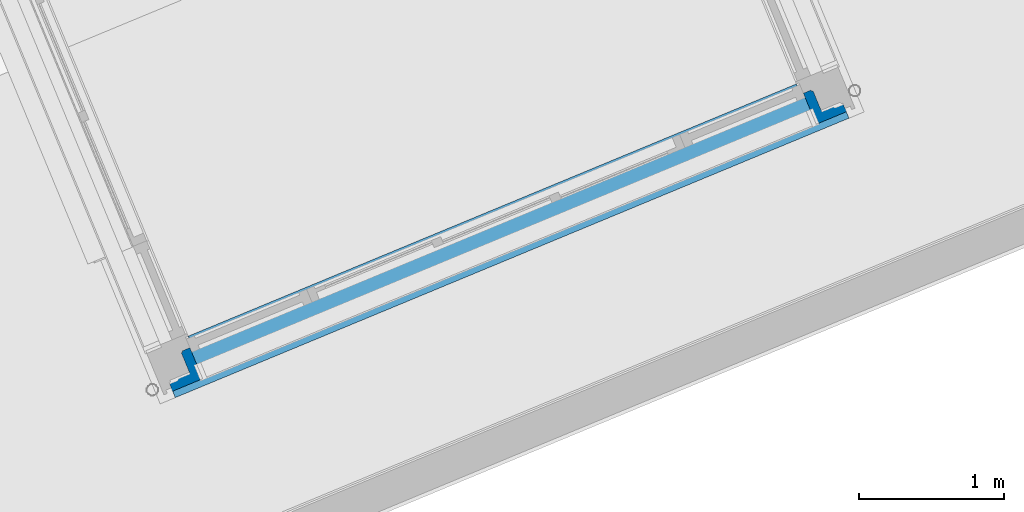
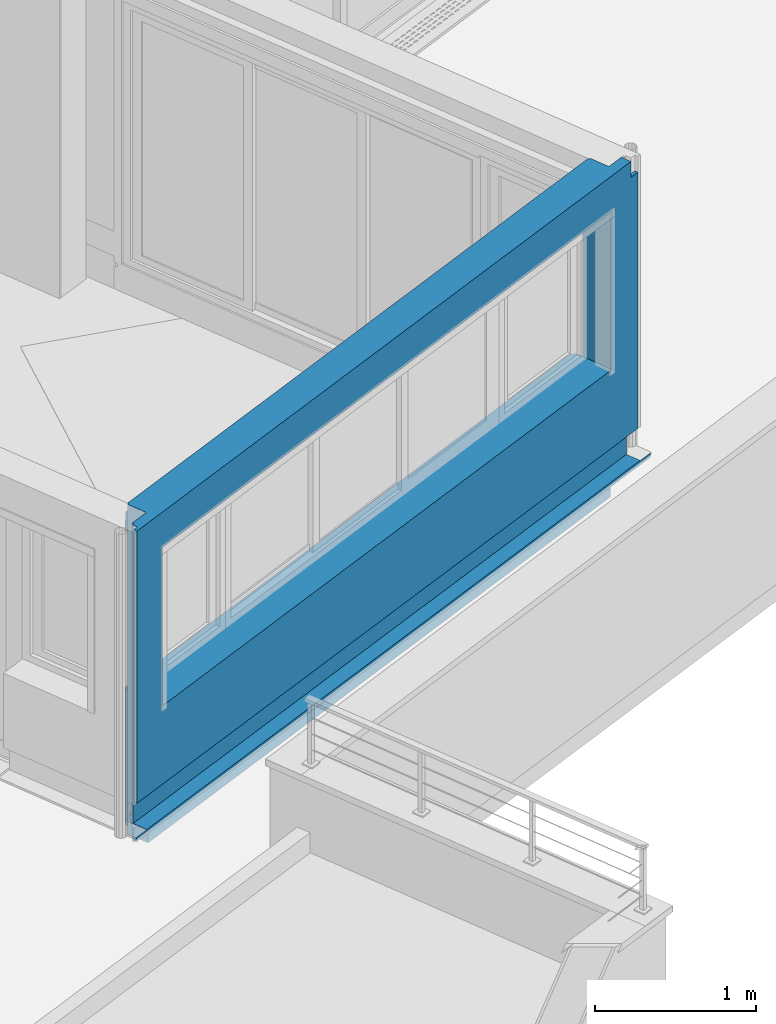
# One storey, part 4 of 62: 1 wall, 3 openings.
"""IFC2X3 building model written with IfcOpenShell, lengths in metres."""

import ifcopenshell
import ifcopenshell.guid

model = None  # the IFC model being written
_history = None  # IfcOwnerHistory: only IFC2X3 demands one
_inside = {}  # id of a spatial element -> (the spatial element, [elements in it])
_under = {}  # id of a project, library or spatial element -> (it, [spatial elements below it])
_declared = {}  # id of a project -> (the project, [libraries it declares])
_typed = {}  # id of a type object -> (the type object, [elements of that type])
_made_of = {}  # id of a material, layer set ... -> (it, [elements and type objects made of it])


def new_model(schema):
    """Start an empty IFC model of exactly this schema.

    Asked for "IFC4X3", IfcOpenShell would pick the latest addendum, in which some entities
    have other attributes; the version numbers below select the first issue.
    IFC2X3 requires an IfcOwnerHistory on every rooted entity: one is made here for all.
    """
    global model, _history
    if schema == "IFC4X3":
        model = ifcopenshell.file(schema_version=(4, 3, 0, 0))
    else:
        model = ifcopenshell.file(schema=schema)
    _inside.clear()
    _under.clear()
    _declared.clear()
    _typed.clear()
    _made_of.clear()
    _history = None
    if model.schema == "IFC2X3":
        org = make("IfcOrganization", Name="unknown")
        user = make(
            "IfcPersonAndOrganization",
            ThePerson=make("IfcPerson", FamilyName="unknown"),
            TheOrganization=org,
        )
        app = make(
            "IfcApplication",
            ApplicationDeveloper=org,
            Version="unknown",
            ApplicationFullName="unknown",
            ApplicationIdentifier="unknown",
        )
        _history = make(
            "IfcOwnerHistory",
            OwningUser=user,
            OwningApplication=app,
            ChangeAction="ADDED",
            CreationDate=0,
        )
    return model


def make(cls, **values):
    """One entity of the class cls with the attributes given. An attribute that is None is left unset."""
    return model.create_entity(
        cls, **{name: value for name, value in values.items() if value is not None}
    )


def entity(cls, *values):
    """Any entity or typed value of the class cls, its attributes in the order of the schema. None: left unset."""
    e = model.create_entity(cls)
    for i, value in enumerate(values):
        if value is not None:
            e[i] = value
    return e


def rooted(cls, **values):
    """An entity with a GlobalId (a new one), such as an element, a storey or a relation."""
    return make(cls, GlobalId=ifcopenshell.guid.new(), OwnerHistory=_history, **values)


def si_unit(unit_type, name, prefix=None):
    """IfcSIUnit, for example si_unit("LENGTHUNIT", "METRE", prefix="MILLI")."""
    return make("IfcSIUnit", UnitType=unit_type, Prefix=prefix, Name=name)


def converted_unit(unit_type, name, factor, base, dimensions=None, offset=None):
    """IfcConversionBasedUnit, such as the inch: factor (a typed value) times the base unit."""
    return make(
        "IfcConversionBasedUnit"
        if offset is None
        else "IfcConversionBasedUnitWithOffset",
        ConversionOffset=offset,
        Dimensions=None
        if dimensions is None
        else entity("IfcDimensionalExponents", *dimensions),
        UnitType=unit_type,
        Name=name,
        ConversionFactor=make(
            "IfcMeasureWithUnit", ValueComponent=factor, UnitComponent=base
        ),
    )


def derived_unit(unit_type, elements):
    """IfcDerivedUnit: a product of units, each with its exponent."""
    return make(
        "IfcDerivedUnit",
        Elements=[
            make("IfcDerivedUnitElement", Unit=unit, Exponent=power)
            for unit, power in elements
        ],
        UnitType=unit_type,
    )


def money_unit(currency):
    """IfcMonetaryUnit."""
    return make("IfcMonetaryUnit", Currency=currency)


def assignment(units):
    """IfcUnitAssignment: the units of a project."""
    return None if units is None else make("IfcUnitAssignment", Units=units)


def point(xyz):
    """IfcCartesianPoint."""
    return None if xyz is None else make("IfcCartesianPoint", Coordinates=xyz)


def direction(xyz):
    """IfcDirection."""
    return None if xyz is None else make("IfcDirection", DirectionRatios=xyz)


def frame(location, z_axis=None, x_axis=None):
    """IfcAxis2Placement3D, a coordinate frame: its origin and axes. An axis left out is left unset."""
    return make(
        "IfcAxis2Placement3D",
        Location=point(location),
        Axis=direction(z_axis),
        RefDirection=direction(x_axis),
    )


def origin_with_axes():
    """The frame at (0, 0, 0) with the z axis (0, 0, 1) and the x axis (1, 0, 0) written out."""
    return frame((0.0, 0.0, 0.0), z_axis=(0.0, 0.0, 1.0), x_axis=(1.0, 0.0, 0.0))


def place(relative_to, where):
    """IfcLocalPlacement: puts the frame where relative to a parent placement (None: the world)."""
    return make(
        "IfcLocalPlacement", PlacementRelTo=relative_to, RelativePlacement=where
    )


def context(
    kind, dimensions, precision=None, world=None, true_north=None, identifier=None
):
    """IfcGeometricRepresentationContext, for example the 3D "Model" context."""
    return make(
        "IfcGeometricRepresentationContext",
        ContextIdentifier=identifier,
        ContextType=kind,
        CoordinateSpaceDimension=dimensions,
        Precision=precision,
        WorldCoordinateSystem=world,
        TrueNorth=true_north,
    )


def subcontext(parent, identifier, kind, view, scale=None):
    """IfcGeometricRepresentationSubContext, for example "Body" below "Model"."""
    return make(
        "IfcGeometricRepresentationSubContext",
        ContextIdentifier=identifier,
        ContextType=kind,
        ParentContext=parent,
        TargetScale=scale,
        TargetView=view,
    )


def project(units=None, contexts=None):
    """IfcProject with its units and contexts."""
    return rooted(
        "IfcProject",
        Name="project",
        RepresentationContexts=contexts,
        UnitsInContext=assignment(units),
    )


def spatial(cls, under=None, at=None, **own):
    """A site, building, storey or space (cls), placed at a placement, below another one or the project."""
    s = rooted(cls, ObjectPlacement=at, **own)
    if under is not None:
        _under.setdefault(under.id(), (under, []))[1].append(s)
    return s


def faces_of(points, faces, orient=None, outer=None):
    """IfcFace entities. A face is a list of loops; a loop is a list of indices into points, from 0.

    orient and outer hold one flag for each loop. By default every Orientation is true, the
    first loop of a face is its IfcFaceOuterBound and the others are IfcFaceBound.
    """
    made = []
    for i, loops in enumerate(faces):
        bounds = []
        for j, loop in enumerate(loops):
            is_outer = j == 0 if outer is None else outer[i][j]
            bounds.append(
                make(
                    "IfcFaceOuterBound" if is_outer else "IfcFaceBound",
                    Bound=make("IfcPolyLoop", Polygon=[points[k] for k in loop]),
                    Orientation=True if orient is None else orient[i][j],
                )
            )
        made.append(make("IfcFace", Bounds=bounds))
    return made


def faceted_brep(points, faces, orient=None, outer=None, voids=None):
    """IfcFacetedBrep: a solid bounded by flat faces; with voids (closed shells), ...WithVoids."""
    shared = [point(p) for p in points]
    hull = make("IfcClosedShell", CfsFaces=faces_of(shared, faces, orient, outer))
    if voids is None:
        return make("IfcFacetedBrep", Outer=hull)
    return make(
        "IfcFacetedBrepWithVoids",
        Outer=hull,
        Voids=[
            make(cls, CfsFaces=faces_of(shared, fs, o, b)) for cls, fs, o, b in voids
        ],
    )


def shape(context_of_items, identifier, shape_type, items):
    """IfcShapeRepresentation: the items that make up one representation, for example the "Body"."""
    return make(
        "IfcShapeRepresentation",
        ContextOfItems=context_of_items,
        RepresentationIdentifier=identifier,
        RepresentationType=shape_type,
        Items=items,
    )


def material(Name=None, Category=None):
    """IfcMaterial."""
    return make("IfcMaterial", Name=Name, Category=Category)


def material_list(materials):
    """IfcMaterialList."""
    return make("IfcMaterialList", Materials=materials)


def made_of(thing, what):
    """Note that an element or type object is made of a material, layer set ...; save() writes the relation."""
    if what is not None:
        _made_of.setdefault(what.id(), (what, []))[1].append(thing)
    return thing


def type_object(cls, material=None, **own):
    """A type object (cls), such as IfcWallType, which elements share."""
    return made_of(rooted(cls, **own), material)


def element(
    cls,
    number,
    at=None,
    inside=None,
    cuts=None,
    type_object=None,
    material=None,
    context=None,
    identifier="Body",
    shape_type=None,
    held_by="IfcProductDefinitionShape",
    body=None,
    shapes=None,
    **own,
):
    """One element of the class cls, such as IfcWall. Its Tag is "e" and its number.

    at: its placement. inside: the storey or other place that contains it. cuts: it is an
    opening in that element (IfcRelVoidsElement). A single representation is given by context,
    identifier, shape_type and body (its items); several are given by shapes. held_by: the class
    of the entity that holds the representations. save() writes the other relations.
    """
    e = rooted(cls, Tag="e%d" % number, ObjectPlacement=at, **own)
    if body is not None:
        shapes = [shape(context, identifier, shape_type, body)]
    if shapes is not None:
        e.Representation = make(held_by, Representations=shapes)
    if inside is not None:
        _inside.setdefault(inside.id(), (inside, []))[1].append(e)
    if cuts is not None:
        rooted(
            "IfcRelVoidsElement", RelatingBuildingElement=cuts, RelatedOpeningElement=e
        )
    if type_object is not None:
        _typed.setdefault(type_object.id(), (type_object, []))[1].append(e)
    return made_of(e, material)


def aggregate(whole, parts):
    """IfcRelAggregates: a whole, such as a stair, and the parts it consists of."""
    return rooted("IfcRelAggregates", RelatingObject=whole, RelatedObjects=parts)


def save(model, path):
    """Write the relations noted so far, then the file.

    IfcRelAggregates (storeys below a building ...), IfcRelContainedInSpatialStructure (elements
    in a storey), IfcRelDefinesByType, IfcRelAssociatesMaterial and IfcRelDeclares: one each for
    every whole, place, type object, material and project.
    """
    for whole, parts in _under.values():
        aggregate(whole, parts)
    for where, things in _inside.values():
        rooted(
            "IfcRelContainedInSpatialStructure",
            RelatedElements=things,
            RelatingStructure=where,
        )
    for kind, things in _typed.values():
        rooted("IfcRelDefinesByType", RelatedObjects=things, RelatingType=kind)
    for what, things in _made_of.values():
        rooted("IfcRelAssociatesMaterial", RelatedObjects=things, RelatingMaterial=what)
    for by, libraries in _declared.values():
        rooted("IfcRelDeclares", RelatingContext=by, RelatedDefinitions=libraries)
    model.write(path)


model = new_model("IFC2X3")

# Units and contexts
model_context = context("Model", 3, precision=1e-05, world=origin_with_axes(), true_north=direction((0.0, 1.0)))
body_context = subcontext(model_context, "Body", "Model", "MODEL_VIEW")
ifc_project = project(units=[si_unit("LENGTHUNIT", "METRE"), si_unit("AREAUNIT", "SQUARE_METRE"), si_unit("VOLUMEUNIT", "CUBIC_METRE"), converted_unit("PLANEANGLEUNIT", "DEGREE", entity("IfcPlaneAngleMeasure", 0.0174532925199), si_unit("PLANEANGLEUNIT", "RADIAN"), dimensions=[0, 0, 0, 0, 0, 0, 0]), si_unit("SOLIDANGLEUNIT", "STERADIAN"), money_unit("EUR"), converted_unit("TIMEUNIT", "Year", entity("IfcTimeMeasure", 31556926.0), si_unit("TIMEUNIT", "SECOND"), dimensions=[0, 0, 1, 0, 0, 0, 0]), si_unit("MASSUNIT", "GRAM", prefix="KILO"), si_unit("THERMODYNAMICTEMPERATUREUNIT", "DEGREE_CELSIUS"), si_unit("LUMINOUSINTENSITYUNIT", "LUMEN"), si_unit("ENERGYUNIT", "JOULE", prefix="MEGA"), derived_unit("THERMALCONDUCTANCEUNIT", [(si_unit("POWERUNIT", "WATT"), 1), (si_unit("LENGTHUNIT", "METRE"), -1), (si_unit("THERMODYNAMICTEMPERATUREUNIT", "KELVIN"), -1)]), derived_unit("SPECIFICHEATCAPACITYUNIT", [(si_unit("ENERGYUNIT", "JOULE"), 1), (si_unit("MASSUNIT", "GRAM", prefix="KILO"), -1), (si_unit("THERMODYNAMICTEMPERATUREUNIT", "KELVIN"), -1)]), derived_unit("MASSDENSITYUNIT", [(si_unit("MASSUNIT", "GRAM", prefix="KILO"), 1), (si_unit("VOLUMEUNIT", "CUBIC_METRE"), -1)])], contexts=[model_context])

# Site, building, storey
site_placement = place(None, origin_with_axes())
site = spatial("IfcSite", under=ifc_project, at=site_placement, Name="Site", CompositionType="ELEMENT")
building_placement = place(site_placement, origin_with_axes())
building = spatial("IfcBuilding", under=site, at=building_placement, Name="Bâtiment", CompositionType="ELEMENT")
storey_placement = place(building_placement, frame((0.0, 0.0, 8.16), z_axis=(0.0, 0.0, 1.0), x_axis=(1.0, 0.0, 0.0)))
storey = spatial("IfcBuildingStorey", under=building, at=storey_placement, Name="R+3", CompositionType="ELEMENT", Elevation=8.16)

# Wall, openings
ifc_material_1 = material(Name="Finition int - Plaque de plâtre")
ifc_material_2 = material(Name="Isolation - Laine de verre")
ifc_material_3 = material(Name="Etanchéité - Pare-vapeur")
ifc_material_4 = material(Name="Bois - Massif 01")
ifc_material_5 = material(Name="Béton")
ifc_material_6 = material(Name="Bois - OSB 02")
ifc_material_7 = material(Name="Etanchéité - Bitume")
ifc_material_8 = material(Name="Bois - Lattage")
ifc_material_9 = material(Name="Finition ext - Bardage bois")
ifc_material_10 = material(Name="Métal - Aluminium")
ifc_material_list = material_list([ifc_material_1, ifc_material_2, ifc_material_3, ifc_material_2, ifc_material_4, ifc_material_5, ifc_material_6, ifc_material_7, ifc_material_7, ifc_material_8, ifc_material_9, ifc_material_10])
wall_type = type_object("IfcWallType", Name="Mur ossature pour PF 358 x 2500", PredefinedType="ELEMENTEDWALL")
wall_placement = place(storey_placement, frame((-15.3230751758, -21.90732106, 0.02), z_axis=(0.0, 0.0, 1.0), x_axis=(0.923701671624, 0.383112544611, 0.0)))
wall = element("IfcWall", 1, at=wall_placement, inside=storey, type_object=wall_type, material=ifc_material_list, Name="M_Ext-009", ObjectType="ELEMENTEDWALL", context=body_context, shape_type="Brep", body=[
    faceted_brep([(3.995, 0.32500000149, 1.03), (3.995, 0.307000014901, 1.03), (4.87499999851, 0.307000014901, 1.03), (4.87499999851, 0.32500000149, 1.03), (1.205, 0.307000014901, 1.03), (1.205, 0.32500000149, 1.03), (0.32500000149, 0.307000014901, 1.03), (0.32500000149, 0.307000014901, 0.435), (0.32500000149, 0.307000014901, 0.23), (0.32500000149, 0.307000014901, 0.219006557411), (0.325000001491, 0.307000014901, 0.206820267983), (0.32500000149, 0.307000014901, 0.20667367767), (0.32500000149, 0.307000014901, 0.206589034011), (0.32500000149, 0.307000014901, 0.2), (0.32500000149, 0.307000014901, 0.099999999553), (0.32500000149, 0.307000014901, 0.0), (4.87499999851, 0.307000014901, 0.0), (4.87499999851, 0.307000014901, 0.099999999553), (4.87499999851, 0.307000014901, 0.2), (4.87499999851, 0.307000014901, 0.206589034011), (4.87499999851, 0.307000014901, 0.20667367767), (4.87499999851, 0.307000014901, 0.206820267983), (4.87499999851, 0.307000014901, 0.219006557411), (4.87499999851, 0.307000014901, 0.22999999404), (4.87499999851, 0.307000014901, 0.435), (4.87499999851, 0.32500000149, 0.435), (4.87499999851, 0.32500000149, 0.22999999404), (4.87499999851, 0.32500000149, 0.219006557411), (4.87499999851, 0.32500000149, 0.206820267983), (4.87499999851, 0.32500000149, 0.20667367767), (4.87499999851, 0.32500000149, 0.206589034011), (4.87499999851, 0.32500000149, 0.2), (4.87499999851, 0.32500000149, 0.099999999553), (4.87499999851, 0.32500000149, 0.0), (0.32500000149, 0.32500000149, 0.0), (0.32500000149, 0.32500000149, 0.099999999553), (0.32500000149, 0.32500000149, 0.2), (0.32500000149, 0.32500000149, 0.206589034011), (0.32500000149, 0.32500000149, 0.20667367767), (0.325000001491, 0.32500000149, 0.206820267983), (0.32500000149, 0.32500000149, 0.219006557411), (0.32500000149, 0.32500000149, 0.23), (0.32500000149, 0.32500000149, 0.435), (0.32500000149, 0.32500000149, 1.03)], [[[0, 1, 2, 3]], [[4, 1, 0, 5]], [[1, 4, 6, 7, 8, 9, 10, 11, 12, 13, 14, 15, 16, 17, 18, 19, 20, 21, 22, 23, 24, 2]], [[2, 24, 25, 3]], [[5, 0, 3, 25, 26, 27, 28, 29, 30, 31, 32, 33, 34, 35, 36, 37, 38, 39, 40, 41, 42, 43]], [[4, 5, 43, 6]], [[42, 7, 6, 43]], [[7, 42, 41, 8]], [[8, 41, 40, 9]], [[40, 39, 10, 9]], [[39, 38, 11, 10]], [[38, 37, 12, 11]], [[37, 36, 13, 12]], [[36, 35, 14, 13]], [[14, 35, 34, 15]], [[33, 16, 15, 34]], [[33, 32, 17, 16]], [[32, 31, 18, 17]], [[31, 30, 19, 18]], [[30, 29, 20, 19]], [[29, 28, 21, 20]], [[28, 27, 22, 21]], [[27, 26, 23, 22]], [[26, 25, 24, 23]]]),
    faceted_brep([(1.205, 0.307000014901, 2.23), (3.995, 0.307000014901, 2.23), (4.87499999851, 0.307000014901, 2.23), (4.87499999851, 0.307000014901, 2.3), (0.32500000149, 0.307000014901, 2.3), (0.32500000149, 0.307000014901, 2.23), (3.995, 0.32500000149, 2.23), (1.205, 0.32500000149, 2.23), (4.87499999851, 0.32500000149, 2.23), (4.87499999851, 0.32500000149, 2.3), (0.32500000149, 0.32500000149, 2.3), (0.32500000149, 0.32500000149, 2.23)], [[[0, 1, 2, 3, 4, 5]], [[6, 1, 0, 7]], [[1, 6, 8, 2]], [[8, 9, 3, 2]], [[10, 4, 3, 9]], [[4, 10, 11, 5]], [[7, 0, 5, 11]], [[6, 7, 11, 10, 9, 8]]]),
    faceted_brep([(3.995, 0.307000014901, 1.03), (3.995, 0.247000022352, 1.03), (4.8929999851, 0.247000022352, 1.03), (4.8929999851, 0.307000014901, 1.03), (1.205, 0.247000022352, 1.03), (1.205, 0.307000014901, 1.03), (0.307000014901, 0.247000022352, 1.03), (0.307000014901, 0.247000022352, 0.435), (0.307000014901, 0.247000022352, 0.23), (0.307000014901, 0.247000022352, 0.219006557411), (0.307000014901, 0.247000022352, 0.206820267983), (0.307000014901, 0.247000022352, 0.20667367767), (0.307000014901, 0.247000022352, 0.206589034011), (0.307000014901, 0.247000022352, 0.2), (0.307000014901, 0.247000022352, 0.099999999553), (0.307000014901, 0.247000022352, 0.0), (4.8929999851, 0.247000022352, 0.0), (4.8929999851, 0.247000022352, 0.099999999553), (4.8929999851, 0.247000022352, 0.2), (4.8929999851, 0.247000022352, 0.206589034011), (4.8929999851, 0.247000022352, 0.20667367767), (4.8929999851, 0.247000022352, 0.206820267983), (4.8929999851, 0.247000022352, 0.219006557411), (4.8929999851, 0.247000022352, 0.22999999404), (4.8929999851, 0.247000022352, 0.435), (4.8929999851, 0.307000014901, 0.435), (4.8929999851, 0.307000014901, 0.22999999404), (4.8929999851, 0.307000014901, 0.219006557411), (4.8929999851, 0.307000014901, 0.206820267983), (4.8929999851, 0.307000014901, 0.20667367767), (4.8929999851, 0.307000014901, 0.206589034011), (4.8929999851, 0.307000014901, 0.2), (4.8929999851, 0.307000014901, 0.099999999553), (4.8929999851, 0.307000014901, 0.0), (0.307000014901, 0.307000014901, 0.0), (0.307000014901, 0.307000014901, 0.099999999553), (0.307000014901, 0.307000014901, 0.2), (0.307000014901, 0.307000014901, 0.206589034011), (0.307000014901, 0.307000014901, 0.20667367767), (0.307000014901, 0.307000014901, 0.206820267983), (0.307000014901, 0.307000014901, 0.219006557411), (0.307000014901, 0.307000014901, 0.23), (0.307000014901, 0.307000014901, 0.435), (0.307000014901, 0.307000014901, 1.03)], [[[0, 1, 2, 3]], [[4, 1, 0, 5]], [[1, 4, 6, 7, 8, 9, 10, 11, 12, 13, 14, 15, 16, 17, 18, 19, 20, 21, 22, 23, 24, 2]], [[2, 24, 25, 3]], [[5, 0, 3, 25, 26, 27, 28, 29, 30, 31, 32, 33, 34, 35, 36, 37, 38, 39, 40, 41, 42, 43]], [[4, 5, 43, 6]], [[42, 7, 6, 43]], [[42, 41, 8, 7]], [[41, 40, 9, 8]], [[40, 39, 10, 9]], [[39, 38, 11, 10]], [[38, 37, 12, 11]], [[37, 36, 13, 12]], [[36, 35, 14, 13]], [[35, 34, 15, 14]], [[33, 16, 15, 34]], [[33, 32, 17, 16]], [[32, 31, 18, 17]], [[31, 30, 19, 18]], [[30, 29, 20, 19]], [[29, 28, 21, 20]], [[28, 27, 22, 21]], [[27, 26, 23, 22]], [[26, 25, 24, 23]]]),
    faceted_brep([(1.205, 0.247000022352, 2.23), (3.995, 0.247000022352, 2.23), (4.8929999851, 0.247000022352, 2.23), (4.8929999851, 0.247000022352, 2.376), (0.307000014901, 0.247000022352, 2.376), (0.307000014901, 0.247000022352, 2.23), (3.995, 0.307000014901, 2.23), (1.205, 0.307000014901, 2.23), (4.8929999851, 0.307000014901, 2.23), (4.8929999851, 0.307000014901, 2.376), (0.307000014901, 0.307000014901, 2.376), (0.307000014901, 0.307000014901, 2.23)], [[[0, 1, 2, 3, 4, 5]], [[6, 1, 0, 7]], [[1, 6, 8, 2]], [[8, 9, 3, 2]], [[10, 4, 3, 9]], [[4, 10, 11, 5]], [[7, 0, 5, 11]], [[6, 7, 11, 10, 9, 8]]]),
    faceted_brep([(3.995, 0.247000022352, 1.03), (3.995, 0.236999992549, 1.03), (4.895, 0.236999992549, 1.03), (4.895, 0.247000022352, 1.03), (1.205, 0.236999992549, 1.03), (1.205, 0.247000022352, 1.03), (4.95299997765, 0.236999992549, 2.5), (0.247000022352, 0.236999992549, 2.5), (0.247000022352, 0.236999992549, 2.45499997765), (0.247000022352, 0.236999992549, 0.435), (0.247000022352, 0.236999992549, 0.23), (0.247000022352, 0.236999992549, 0.219006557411), (0.247000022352, 0.236999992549, 0.206820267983), (0.247000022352, 0.236999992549, 0.20667367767), (0.247000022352, 0.236999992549, 0.206589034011), (0.247000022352, 0.236999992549, 0.2), (0.247000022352, 0.236999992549, 0.099999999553), (0.247000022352, 0.236999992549, 0.0), (4.95299997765, 0.236999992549, 0.0), (4.95299997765, 0.236999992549, 0.099999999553), (4.95299997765, 0.236999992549, 0.2), (4.95299997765, 0.236999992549, 0.206589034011), (4.95299997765, 0.236999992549, 0.20667367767), (4.95299997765, 0.236999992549, 0.206820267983), (4.95299997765, 0.236999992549, 0.219006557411), (4.95299997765, 0.236999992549, 0.22999999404), (4.95299997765, 0.236999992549, 0.435), (4.95299997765, 0.236999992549, 2.455), (1.205, 0.236999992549, 2.23), (3.995, 0.236999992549, 2.23), (4.895, 0.236999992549, 2.23), (0.305, 0.236999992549, 1.03), (0.305, 0.236999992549, 2.23), (4.895, 0.247000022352, 2.23), (4.95299997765, 0.247000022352, 2.455), (4.95299997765, 0.247000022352, 0.435), (4.95299997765, 0.247000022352, 0.22999999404), (4.95299997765, 0.247000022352, 0.219006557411), (4.95299997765, 0.247000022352, 0.206820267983), (4.95299997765, 0.247000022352, 0.20667367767), (4.95299997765, 0.247000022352, 0.206589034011), (4.95299997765, 0.247000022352, 0.2), (4.95299997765, 0.247000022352, 0.099999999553), (4.95299997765, 0.247000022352, 0.0), (0.247000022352, 0.247000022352, 0.0), (0.247000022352, 0.247000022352, 0.099999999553), (0.247000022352, 0.247000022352, 0.2), (0.247000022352, 0.247000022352, 0.206589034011), (0.247000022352, 0.247000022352, 0.20667367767), (0.247000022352, 0.247000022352, 0.206820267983), (0.247000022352, 0.247000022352, 0.219006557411), (0.247000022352, 0.247000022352, 0.23), (0.247000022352, 0.247000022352, 0.435), (0.247000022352, 0.247000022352, 2.45499997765), (0.247000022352, 0.247000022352, 2.5), (4.95299997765, 0.247000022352, 2.5), (3.995, 0.247000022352, 2.23), (1.205, 0.247000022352, 2.23), (0.305, 0.247000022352, 2.23), (0.305, 0.247000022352, 1.03)], [[[0, 1, 2, 3]], [[4, 1, 0, 5]], [[6, 7, 8, 9, 10, 11, 12, 13, 14, 15, 16, 17, 18, 19, 20, 21, 22, 23, 24, 25, 26, 27], [28, 29, 30, 2, 1, 4, 31, 32]], [[30, 33, 3, 2]], [[34, 35, 36, 37, 38, 39, 40, 41, 42, 43, 44, 45, 46, 47, 48, 49, 50, 51, 52, 53, 54, 55], [56, 57, 58, 59, 5, 0, 3, 33]], [[4, 5, 59, 31]], [[6, 55, 54, 7]], [[54, 53, 8, 7]], [[53, 52, 9, 8]], [[52, 51, 10, 9]], [[51, 50, 11, 10]], [[50, 49, 12, 11]], [[49, 48, 13, 12]], [[48, 47, 14, 13]], [[47, 46, 15, 14]], [[46, 45, 16, 15]], [[45, 44, 17, 16]], [[43, 18, 17, 44]], [[43, 42, 19, 18]], [[42, 41, 20, 19]], [[41, 40, 21, 20]], [[40, 39, 22, 21]], [[39, 38, 23, 22]], [[38, 37, 24, 23]], [[37, 36, 25, 24]], [[36, 35, 26, 25]], [[35, 34, 27, 26]], [[34, 55, 6, 27]], [[56, 29, 28, 57]], [[29, 56, 33, 30]], [[59, 58, 32, 31]], [[57, 28, 32, 58]]]),
    faceted_brep([(3.995, 0.0919999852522, 1.03), (4.895, 0.0919999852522, 1.03), (4.895, 0.237000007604, 1.03), (0.305, 0.237000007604, 1.03), (0.305, 0.0919999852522, 1.03), (1.205, 0.0919999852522, 1.03), (0.237000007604, 0.0919999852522, 2.4550000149), (0.237000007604, 0.0919999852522, 0.230000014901), (4.9629999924, 0.0919999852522, 0.230000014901), (4.9629999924, 0.0919999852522, 2.4550000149), (1.205, 0.0919999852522, 2.23), (3.995, 0.0919999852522, 2.23), (4.895, 0.0919999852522, 2.23), (0.305, 0.0919999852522, 2.23), (4.895, 0.237000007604, 2.23), (4.9629999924, 0.237000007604, 0.230000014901), (0.237000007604, 0.237000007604, 0.230000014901), (0.237000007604, 0.237000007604, 2.4550000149), (4.9629999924, 0.237000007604, 2.4550000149), (0.305, 0.237000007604, 2.23), (0.237000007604, 0.170628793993, 0.230000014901), (4.9629999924, 0.170628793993, 0.230000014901)], [[[0, 1, 2, 3, 4, 5]], [[6, 7, 8, 9], [10, 11, 12, 1, 0, 5, 4, 13]], [[12, 14, 2, 1]], [[15, 16, 17, 18], [14, 19, 3, 2]], [[13, 4, 3, 19]], [[17, 16, 20, 7, 6]], [[21, 8, 7, 20]], [[9, 8, 21, 15, 18]], [[18, 17, 6, 9]], [[10, 13, 19, 14, 12, 11]], [[15, 21, 20, 16]]]),
    faceted_brep([(4.963, 0.092, 2.455), (4.963, 0.092, 2.5), (0.237, 0.092, 2.5), (0.237, 0.092, 2.455), (4.963, 0.237, 2.5), (4.963, 0.237, 2.455), (0.237, 0.237, 2.5), (0.237, 0.237, 2.455)], [[[0, 1, 2, 3]], [[4, 1, 0, 5]], [[1, 4, 6, 2]], [[3, 2, 6, 7]], [[5, 0, 3, 7]], [[4, 5, 7, 6]]]),
    faceted_brep([(0.237, 0.0770000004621, 0.099999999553), (0.237, 0.237000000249, 0.099999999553), (0.237, 0.237, 0.0), (0.237, 0.077, 0.0), (0.237, 0.077, 0.199556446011), (0.237, 0.0809765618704, 0.2), (0.237, 0.237000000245, 0.2), (4.963, 0.237000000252, 0.0), (0.237, 0.237000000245, 0.206589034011), (0.237, 0.237000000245, 0.20667367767), (0.237, 0.237000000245, 0.206820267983), (0.237, 0.237000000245, 0.219006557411), (0.237, 0.237000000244, 0.23), (4.963, 0.237000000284, 0.23), (4.963, 0.237000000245, 0.219006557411), (4.963, 0.237000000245, 0.206820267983), (4.963, 0.237000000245, 0.20667367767), (4.963, 0.237000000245, 0.206589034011), (4.963, 0.237000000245, 0.2), (4.963, 0.237000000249, 0.099999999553), (4.963, 0.077, 0.0), (4.963, 0.0770000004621, 0.099999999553), (0.237, 0.142121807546, 0.206820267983), (0.237, 0.140807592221, 0.20667367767), (0.237, 0.140048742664, 0.206589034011), (4.963, 0.077, 0.199556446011), (4.963, 0.0809765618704, 0.2), (4.963, 0.140048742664, 0.206589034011), (4.963, 0.140807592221, 0.20667367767), (4.963, 0.142121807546, 0.206820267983), (4.963, 0.170628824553, 0.21), (0.237, 0.170628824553, 0.21), (0.237, 0.170628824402, 0.219006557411), (0.237, 0.170628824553, 0.23), (4.963, 0.170628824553, 0.23), (4.963, 0.170628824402, 0.219006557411)], [[[0, 1, 2, 3]], [[4, 5, 6, 1, 0]], [[7, 2, 1, 6, 8, 9, 10, 11, 12, 13, 14, 15, 16, 17, 18, 19]], [[20, 3, 2, 7]], [[21, 0, 3, 20]], [[22, 23, 24, 5, 4, 25, 26, 27, 28, 29, 30, 31]], [[8, 6, 5, 24]], [[25, 4, 0, 21]], [[9, 8, 24, 23]], [[9, 23, 22, 10]], [[10, 22, 31, 32, 11]], [[11, 32, 33, 12]], [[13, 12, 33, 34]], [[13, 34, 35, 14]], [[30, 29, 15, 14, 35]], [[16, 15, 29, 28]], [[27, 17, 16, 28]], [[26, 18, 17, 27]], [[21, 19, 18, 26, 25]], [[20, 7, 19, 21]], [[35, 32, 31, 30]], [[34, 33, 32, 35]]]),
    faceted_brep([(5.09000000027, 0.0920000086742, 2.38), (5.10799999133, 0.0920000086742, 2.38), (5.10800002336, 0.0919999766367, 0.230000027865), (0.0919999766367, 0.0919999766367, 0.230000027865), (0.0920000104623, 0.0920000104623, 2.5), (5.09000000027, 0.0920000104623, 2.5), (3.995, 0.092000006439, 2.23), (1.205, 0.092000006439, 2.23), (0.305, 0.092000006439, 2.23), (0.305, 0.0919999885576, 1.03), (1.205, 0.0919999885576, 1.03), (3.995, 0.0919999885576, 1.03), (4.895, 0.0919999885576, 1.03), (4.895, 0.092000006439, 2.23), (5.09000000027, 0.0800000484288, 2.38), (5.10799999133, 0.0800000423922, 2.38), (5.10800002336, 0.0800000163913, 0.230000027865), (0.0919999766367, 0.0800000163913, 0.230000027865), (0.0920000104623, 0.0800000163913, 2.5), (5.09000000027, 0.0800000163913, 2.5), (3.995, 0.0800000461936, 2.23), (1.205, 0.080000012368, 2.23), (0.305, 0.080000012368, 2.23), (4.895, 0.0800000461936, 2.23), (0.305, 0.0799999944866, 1.03), (1.205, 0.0799999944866, 1.03), (3.995, 0.0800000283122, 1.03), (4.895, 0.0800000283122, 1.03)], [[[0, 1, 2, 3, 4, 5], [6, 7, 8, 9, 10, 11, 12, 13]], [[0, 14, 15, 1]], [[16, 2, 1, 15]], [[3, 2, 16, 17]], [[3, 17, 18, 4]], [[19, 5, 4, 18]], [[14, 0, 5, 19]], [[20, 21, 22, 8, 7, 6, 13, 23]], [[9, 8, 22, 24]], [[25, 26, 27, 12, 11, 10, 9, 24]], [[23, 13, 12, 27]], [[16, 15, 14, 19, 18, 17], [21, 20, 23, 27, 26, 25, 24, 22]]]),
    faceted_brep([(0.0770000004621, 0.0670000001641, 0.199556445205), (0.0770000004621, 0.0670000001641, 0.1), (5.12299999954, 0.0670000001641, 0.1), (5.12299999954, 0.0670000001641, 0.199556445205), (5.11902343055, 0.0670000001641, 0.2), (5.05995125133, 0.0670000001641, 0.206589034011), (5.05919247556, 0.0670000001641, 0.206673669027), (0.140807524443, 0.0670000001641, 0.206673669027), (0.140048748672, 0.0670000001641, 0.206589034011), (0.0809765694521, 0.0670000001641, 0.2), (0.0770000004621, 0.0770000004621, 0.1), (0.0770000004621, 0.0770000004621, 0.199556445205), (5.12299999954, 0.0770000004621, 0.1), (5.12299999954, 0.0770000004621, 0.199556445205), (5.11902343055, 0.0809765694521, 0.2), (5.05995125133, 0.140048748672, 0.206589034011), (5.05919240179, 0.140807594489, 0.206673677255), (0.142121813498, 0.0682318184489, 0.206820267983), (5.0578781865, 0.0682318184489, 0.206820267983), (5.0293711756, 0.0949499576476, 0.209999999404), (5.0293711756, 0.170628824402, 0.219006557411), (0.170628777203, 0.170628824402, 0.219006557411), (0.170628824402, 0.0949499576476, 0.209999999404), (0.140807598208, 0.140807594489, 0.206673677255), (0.140048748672, 0.140048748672, 0.206589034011), (0.0809765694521, 0.0809765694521, 0.2), (0.142121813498, 0.142121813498, 0.206820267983), (0.170628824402, 0.170628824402, 0.209999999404), (5.0293711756, 0.170628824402, 0.209999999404), (5.0578781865, 0.142121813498, 0.206820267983)], [[[0, 1, 2, 3, 4, 5, 6, 7, 8, 9]], [[10, 1, 0, 11]], [[1, 10, 12, 2]], [[2, 12, 13, 3]], [[4, 3, 13, 14]], [[15, 5, 4, 14]], [[5, 15, 16, 6]], [[17, 7, 6, 18, 19, 20, 21, 22]], [[23, 24, 8, 7]], [[25, 9, 8, 24]], [[11, 0, 9, 25]], [[10, 11, 13, 12]], [[11, 25, 24, 23, 26, 27, 28, 29, 16, 15, 14, 13]], [[18, 6, 16, 29]], [[7, 17, 26, 23]], [[19, 18, 29, 28]], [[20, 19, 28]], [[27, 21, 20, 28]], [[22, 21, 27]], [[17, 22, 27, 26]]]),
    faceted_brep([(5.13299999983, 0.0670000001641, 0.206673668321), (5.13299999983, 0.0682318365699, 0.206820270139), (5.13176818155, 0.0682318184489, 0.206820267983), (5.13299992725, 0.140807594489, 0.206673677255), (5.13299999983, 0.142121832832, 0.206820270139), (5.13176818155, 0.142121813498, 0.206820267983)], [[[0, 1, 2]], [[3, 4, 1, 0]], [[4, 5, 2, 1]], [[5, 3, 0, 2]], [[3, 5, 4]]]),
    faceted_brep([(0.0662888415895, 0.0662888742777, 0.206589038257), (0.0670000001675, 0.0665491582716, 0.206673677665), (0.0670000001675, 0.0670000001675, 0.206673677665), (5.13371116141, 0.0662888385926, 0.206589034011), (5.13299999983, 0.0665491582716, 0.206673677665), (5.13299999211, 0.0669999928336, 0.206820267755), (0.0682317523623, 0.0669999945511, 0.206820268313), (5.13300007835, 0.0670000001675, 0.206673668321)], [[[0, 1, 2]], [[1, 0, 3, 4, 5, 6]], [[2, 1, 6]], [[0, 2, 7, 3]], [[4, 3, 7]], [[5, 4, 7]], [[2, 6, 5, 7]]]),
    faceted_brep([(5.09000000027, 0.0800000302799, 2.38), (5.11999996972, 0.0800000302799, 2.38), (5.11999996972, 0.0800000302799, 0.435000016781), (0.0800000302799, 0.0800000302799, 0.435000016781), (0.0800000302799, 0.0800000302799, 2.5), (5.09000000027, 0.0800000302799, 2.5), (3.995, 0.0800000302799, 2.23), (1.205, 0.0800000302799, 2.23), (0.305, 0.0800000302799, 2.23), (0.305, 0.0800000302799, 1.03), (1.205, 0.0800000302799, 1.03), (3.995, 0.0800000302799, 1.03), (4.895, 0.0800000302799, 1.03), (4.895, 0.0800000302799, 2.23), (5.09000000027, 0.039999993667, 2.38), (5.11999996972, 0.039999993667, 2.38), (5.11999996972, 0.039999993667, 0.435000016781), (5.11999996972, 0.0750000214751, 0.435000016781), (0.0800000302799, 0.0750000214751, 0.435000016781), (0.0800000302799, 0.039999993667, 2.5), (0.0800000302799, 0.039999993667, 0.435000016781), (5.09000000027, 0.039999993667, 2.5), (3.995, 0.039999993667, 2.23), (1.205, 0.039999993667, 2.23), (0.305, 0.039999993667, 2.23), (4.895, 0.039999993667, 2.23), (0.305, 0.039999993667, 1.03), (1.205, 0.039999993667, 1.03), (3.995, 0.039999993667, 1.03), (4.895, 0.039999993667, 1.03)], [[[0, 1, 2, 3, 4, 5], [6, 7, 8, 9, 10, 11, 12, 13]], [[0, 14, 15, 1]], [[1, 15, 16, 17, 2]], [[18, 3, 2, 17]], [[19, 4, 3, 18, 20]], [[21, 5, 4, 19]], [[14, 0, 5, 21]], [[22, 23, 24, 8, 7, 6, 13, 25]], [[9, 8, 24, 26]], [[27, 28, 29, 12, 11, 10, 9, 26]], [[25, 13, 12, 29]], [[16, 15, 14, 21, 19, 20], [23, 22, 25, 29, 28, 27, 26, 24]], [[20, 18, 17, 16]]]),
    faceted_brep([(5.16, 0.04, 2.38), (5.16, 0.04, 0.435), (0.04, 0.04, 0.435), (0.04, 0.04, 2.5), (5.09000000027, 0.04, 2.5), (5.09000000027, 0.04, 2.38), (3.995, 0.04, 2.23), (1.205, 0.04, 2.23), (0.305, 0.04, 2.23), (0.305, 0.04, 1.03), (1.205, 0.04, 1.03), (3.995, 0.04, 1.03), (4.895, 0.04, 1.03), (4.895, 0.04, 2.23), (5.16, 0.015, 2.38), (5.16, 0.015, 0.435), (0.04, 0.015, 0.435), (0.04, 0.015, 2.5), (5.09000000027, 0.015, 2.5), (5.09000000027, 0.015, 2.38), (3.995, 0.015, 2.23), (1.205, 0.015, 2.23), (0.305, 0.015, 2.23), (4.895, 0.015, 2.23), (0.305, 0.015, 1.03), (1.205, 0.015, 1.03), (3.995, 0.015, 1.03), (4.895, 0.015, 1.03)], [[[0, 1, 2, 3, 4, 5], [6, 7, 8, 9, 10, 11, 12, 13]], [[1, 0, 14, 15]], [[2, 1, 15, 16]], [[16, 17, 3, 2]], [[4, 3, 17, 18]], [[5, 4, 18, 19]], [[19, 14, 0, 5]], [[20, 21, 22, 8, 7, 6, 13, 23]], [[9, 8, 22, 24]], [[25, 26, 27, 12, 11, 10, 9, 24]], [[23, 13, 12, 27]], [[19, 18, 17, 16, 15, 14], [21, 20, 23, 27, 26, 25, 24, 22]]]),
    faceted_brep([(5.22800000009, -0.028, 0.22999999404), (5.22800000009, -0.033, 0.22999999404), (5.22799999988, -0.033, 0.219006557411), (5.22799999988, -0.028, 0.219006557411), (5.12, -0.033, 0.230000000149), (5.12, -0.028, 0.230000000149), (5.12, -0.033, 0.234999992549), (0.08, -0.033, 0.234999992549), (0.08, -0.033, 0.23), (-0.028, -0.033, 0.23), (-0.0279999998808, -0.033, 0.219006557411), (-0.028, -0.033, 0.206820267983), (-0.028, -0.033, 0.20667367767), (-0.028, -0.033, 0.206589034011), (-0.028, -0.033, 0.2), (5.228, -0.033, 0.2), (5.228, -0.033, 0.206589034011), (5.228, -0.033, 0.20667367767), (5.228, -0.033, 0.206820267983), (5.228, -0.028, 0.206820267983), (5.228, -0.028, 0.20667367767), (5.228, -0.028, 0.206589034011), (5.228, -0.028, 0.2), (-0.028, -0.028, 0.2), (-0.028, -0.028, 0.206589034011), (-0.028, -0.028, 0.20667367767), (-0.028, -0.028, 0.206820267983), (-0.0279999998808, -0.028, 0.219006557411), (-0.028, -0.028, 0.23), (0.08, -0.028, 0.23), (5.12, 0.075, 0.234999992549), (5.12, 0.08, 0.230000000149), (5.12, 0.08, 0.435), (5.12, 0.075, 0.435), (0.08, 0.075, 0.234999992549), (0.08, 0.075, 0.435), (0.08, 0.08, 0.435), (0.08, 0.08, 0.23)], [[[0, 1, 2, 3]], [[4, 1, 0, 5]], [[4, 6, 7, 8, 9, 10, 11, 12, 13, 14, 15, 16, 17, 18, 2, 1]], [[3, 2, 18, 19]], [[5, 0, 3, 19, 20, 21, 22, 23, 24, 25, 26, 27, 28, 29]], [[30, 6, 4, 5, 31, 32, 33]], [[6, 30, 34, 7]], [[8, 7, 34, 35, 36, 37, 29]], [[9, 8, 29, 28]], [[9, 28, 27, 10]], [[10, 27, 26, 11]], [[11, 26, 25, 12]], [[12, 25, 24, 13]], [[13, 24, 23, 14]], [[22, 15, 14, 23]], [[21, 16, 15, 22]], [[20, 17, 16, 21]], [[19, 18, 17, 20]], [[31, 5, 29, 37]], [[32, 31, 37, 36]], [[33, 32, 36, 35]], [[30, 33, 35, 34]]]),
])
opening_1_placement = place(wall_placement, frame((0.755, 0.0, 1.03), z_axis=(0.0, 0.0, 1.0), x_axis=(1.0, 0.0, 0.0)))
element("IfcOpeningElement", 2, at=opening_1_placement, cuts=wall, Name="MEN 116", context=body_context, shape_type="Brep", body=[
    faceted_brep([(0.45, 0.212, 0.0), (-0.45, 0.212, 0.0), (-0.45, 0.81500000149, 0.0), (0.45, 0.81500000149, 0.0), (0.45, 0.212, 1.2), (-0.45, 0.212, 1.2), (-0.45, 0.81500000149, 1.2), (0.45, 0.81500000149, 1.2)], [[[0, 1, 2, 3]], [[0, 4, 5, 1]], [[1, 5, 6, 2]], [[3, 2, 6, 7]], [[4, 0, 3, 7]], [[5, 4, 7, 6]]]),
    faceted_brep([(0.45, 0.212, 0.0), (0.45, 0.212, 1.2), (0.45, -0.39100000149, 1.2), (0.45, -0.39100000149, 0.0), (-0.45, 0.212, 0.0), (-0.45, 0.212, 1.2), (-0.45, -0.39100000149, 1.2), (-0.45, -0.39100000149, 0.0)], [[[0, 1, 2, 3]], [[0, 4, 5, 1]], [[1, 5, 6, 2]], [[3, 2, 6, 7]], [[4, 0, 3, 7]], [[5, 4, 7, 6]]]),
    faceted_brep([(0.45, 0.212, 0.0), (0.45, 0.212, 1.2), (0.45, -0.39100000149, 1.2), (0.45, -0.39100000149, 0.0), (-0.45, 0.212, 0.0), (-0.45, 0.212, 1.2), (-0.45, -0.39100000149, 1.2), (-0.45, -0.39100000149, 0.0)], [[[0, 1, 2, 3]], [[0, 4, 5, 1]], [[1, 5, 6, 2]], [[3, 2, 6, 7]], [[4, 0, 3, 7]], [[5, 4, 7, 6]]]),
])
opening_2_placement = place(wall_placement, frame((4.445, 0.0, 1.03), z_axis=(0.0, 0.0, 1.0), x_axis=(1.0, 0.0, 0.0)))
element("IfcOpeningElement", 3, at=opening_2_placement, cuts=wall, Name="MEN 118", context=body_context, shape_type="Brep", body=[
    faceted_brep([(0.45, 0.212, 0.0), (-0.45, 0.212, 0.0), (-0.45, 0.81500000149, 0.0), (0.45, 0.81500000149, 0.0), (0.45, 0.212, 1.2), (-0.45, 0.212, 1.2), (-0.45, 0.81500000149, 1.2), (0.45, 0.81500000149, 1.2)], [[[0, 1, 2, 3]], [[0, 4, 5, 1]], [[1, 5, 6, 2]], [[3, 2, 6, 7]], [[4, 0, 3, 7]], [[5, 4, 7, 6]]]),
    faceted_brep([(0.45, 0.212, 0.0), (0.45, 0.212, 1.2), (0.45, -0.39100000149, 1.2), (0.45, -0.39100000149, 0.0), (-0.45, 0.212, 0.0), (-0.45, 0.212, 1.2), (-0.45, -0.39100000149, 1.2), (-0.45, -0.39100000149, 0.0)], [[[0, 1, 2, 3]], [[0, 4, 5, 1]], [[1, 5, 6, 2]], [[3, 2, 6, 7]], [[4, 0, 3, 7]], [[5, 4, 7, 6]]]),
    faceted_brep([(0.45, 0.212, 0.0), (0.45, 0.212, 1.2), (0.45, -0.39100000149, 1.2), (0.45, -0.39100000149, 0.0), (-0.45, 0.212, 0.0), (-0.45, 0.212, 1.2), (-0.45, -0.39100000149, 1.2), (-0.45, -0.39100000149, 0.0)], [[[0, 1, 2, 3]], [[0, 4, 5, 1]], [[1, 5, 6, 2]], [[3, 2, 6, 7]], [[4, 0, 3, 7]], [[5, 4, 7, 6]]]),
])
opening_3_placement = place(wall_placement, frame((2.6, 0.0, 1.03), z_axis=(0.0, 0.0, 1.0), x_axis=(1.0, 0.0, 0.0)))
element("IfcOpeningElement", 4, at=opening_3_placement, cuts=wall, Name="MEN 117", context=body_context, shape_type="Brep", body=[
    faceted_brep([(1.4, 0.212, 0.0), (-1.4, 0.212, 0.0), (-1.4, 0.81500000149, 0.0), (1.4, 0.81500000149, 0.0), (1.4, 0.212, 1.2), (-1.4, 0.212, 1.2), (-1.4, 0.81500000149, 1.2), (1.4, 0.81500000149, 1.2)], [[[0, 1, 2, 3]], [[0, 4, 5, 1]], [[1, 5, 6, 2]], [[3, 2, 6, 7]], [[4, 0, 3, 7]], [[5, 4, 7, 6]]]),
    faceted_brep([(1.4, 0.212, 0.0), (1.4, 0.212, 1.2), (1.4, -0.39100000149, 1.2), (1.4, -0.39100000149, 0.0), (-1.4, 0.212, 0.0), (-1.4, 0.212, 1.2), (-1.4, -0.39100000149, 1.2), (-1.4, -0.39100000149, 0.0)], [[[0, 1, 2, 3]], [[0, 4, 5, 1]], [[1, 5, 6, 2]], [[3, 2, 6, 7]], [[4, 0, 3, 7]], [[5, 4, 7, 6]]]),
    faceted_brep([(1.4, 0.212, 0.0), (1.4, 0.212, 1.2), (1.4, -0.39100000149, 1.2), (1.4, -0.39100000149, 0.0), (-1.4, 0.212, 0.0), (-1.4, 0.212, 1.2), (-1.4, -0.39100000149, 1.2), (-1.4, -0.39100000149, 0.0)], [[[0, 1, 2, 3]], [[0, 4, 5, 1]], [[1, 5, 6, 2]], [[3, 2, 6, 7]], [[4, 0, 3, 7]], [[5, 4, 7, 6]]]),
])

save(model, "model.ifc")
